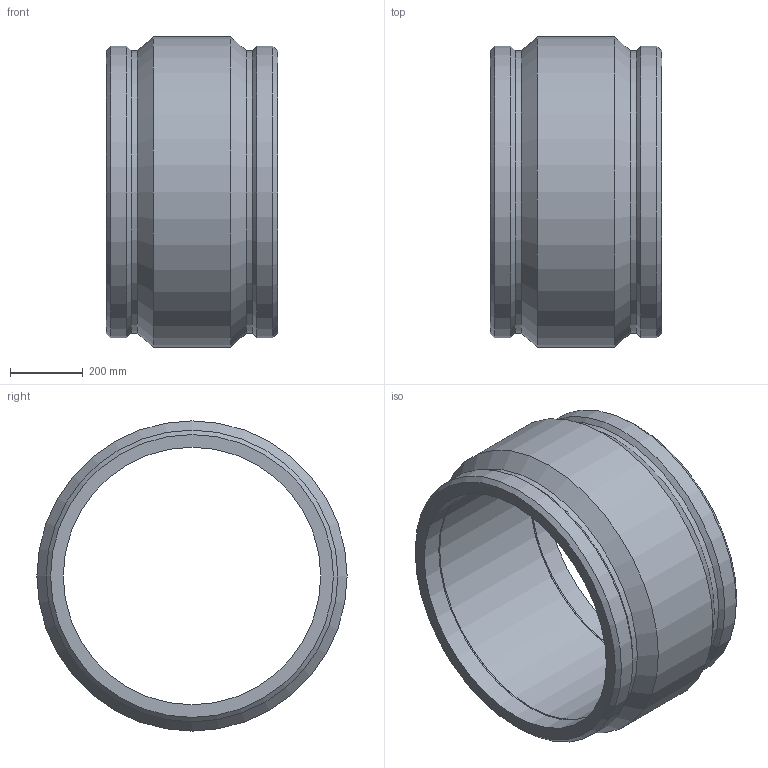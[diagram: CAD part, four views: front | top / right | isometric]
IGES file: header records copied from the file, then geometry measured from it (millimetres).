
Global section: file name: 59013003280.ipt; native system: Autodesk Inventor 2019; preprocessor: unknown; author: KIM; date: 20210830.100844; units: inch
Bounding box: 471.93 x 852.93 x 852.93 mm (x, y, z)
Volume: 66346344 mm3; surface area: 2558347.6 mm2
Topology: 1 solids, 1 shells, 20 faces, 44 edges, 28 vertices
Faces by surface type: cone 6, cylinder 5, revolution 5, plane 4
Full cylindrical faces by diameter (mm): 777.703 x2, 801.756 x2, 852.932 x1
